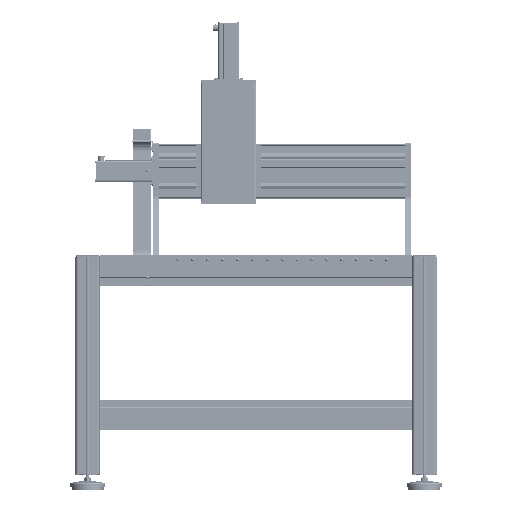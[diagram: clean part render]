
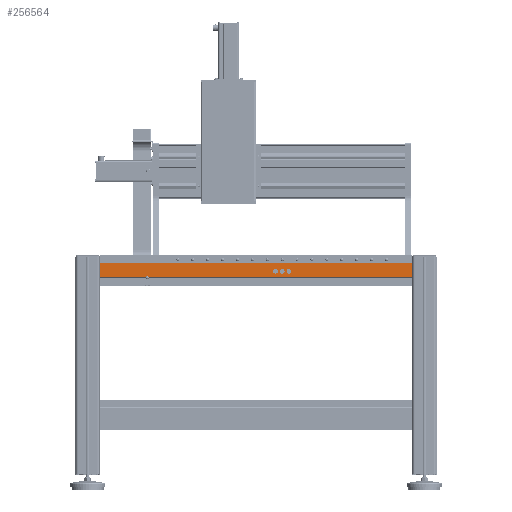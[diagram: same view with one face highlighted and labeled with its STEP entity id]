
A CAD part, top view. The second image highlights one B-rep face of the part: STEP entity #256564.
In plain terms, the highlighted planar face has unit normal (0, 0, 1).
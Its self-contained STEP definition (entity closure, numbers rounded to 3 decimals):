
#7085 = AXIS2_PLACEMENT_3D ( 'NONE', #435573, #193745, #476369 ) ;
#22583 = CARTESIAN_POINT ( 'NONE',  ( -525., 30.8, 566. ) ) ;
#33437 = CARTESIAN_POINT ( 'NONE',  ( 525., 30.8, 566. ) ) ;
#37410 = VERTEX_POINT ( 'NONE', #277957 ) ;
#37739 = ORIENTED_EDGE ( 'NONE', *, *, #41252, .F. ) ;
#41252 = EDGE_CURVE ( 'NONE', #378150, #202920, #470685, .T. ) ;
#41969 = EDGE_LOOP ( 'NONE', ( #69222 ) ) ;
#58509 = AXIS2_PLACEMENT_3D ( 'NONE', #70605, #352925, #111093 ) ;
#63387 = EDGE_CURVE ( 'NONE', #298938, #378150, #342848, .T. ) ;
#63935 = AXIS2_PLACEMENT_3D ( 'NONE', #455612, #213645, #496287 ) ;
#69222 = ORIENTED_EDGE ( 'NONE', *, *, #179534, .F. ) ;
#70605 = CARTESIAN_POINT ( 'NONE',  ( 88., 76.8, 566. ) ) ;
#81254 = CIRCLE ( 'NONE', #300457, 3.5 ) ;
#98791 = EDGE_CURVE ( 'NONE', #37410, #252019, #299181, .T. ) ;
#106605 = CARTESIAN_POINT ( 'NONE',  ( 116.5, 76.8, 566. ) ) ;
#111093 = DIRECTION ( 'NONE',  ( 1., 0., 0. ) ) ;
#149563 = VECTOR ( 'NONE', #152437, 1000. ) ;
#149776 = ORIENTED_EDGE ( 'NONE', *, *, #63387, .F. ) ;
#152072 = LINE ( 'NONE', #353496, #149563 ) ;
#152437 = DIRECTION ( 'NONE',  ( 0., 1., 0. ) ) ;
#152523 = VERTEX_POINT ( 'NONE', #106605 ) ;
#157026 = EDGE_CURVE ( 'NONE', #252019, #298938, #81254, .T. ) ;
#157750 = EDGE_LOOP ( 'NONE', ( #191311 ) ) ;
#160003 = EDGE_CURVE ( 'NONE', #455758, #202920, #371862, .T. ) ;
#160129 = CARTESIAN_POINT ( 'NONE',  ( -525., 105.5, 566. ) ) ;
#164496 = DIRECTION ( 'NONE',  ( -1., 0., 0. ) ) ;
#171106 = AXIS2_PLACEMENT_3D ( 'NONE', #33437, #435760, #356274 ) ;
#179534 = EDGE_CURVE ( 'NONE', #234416, #234416, #515538, .T. ) ;
#191311 = ORIENTED_EDGE ( 'NONE', *, *, #202838, .F. ) ;
#193745 = DIRECTION ( 'NONE',  ( 0., 0., 1. ) ) ;
#202838 = EDGE_CURVE ( 'NONE', #152523, #152523, #371363, .T. ) ;
#202920 = VERTEX_POINT ( 'NONE', #160129 ) ;
#207614 = VERTEX_POINT ( 'NONE', #269523 ) ;
#213645 = DIRECTION ( 'NONE',  ( 0., 0., 1. ) ) ;
#215391 = EDGE_LOOP ( 'NONE', ( #287643 ) ) ;
#221986 = CARTESIAN_POINT ( 'NONE',  ( -365., 55.8, 566. ) ) ;
#226120 = DIRECTION ( 'NONE',  ( -1., 0., 0. ) ) ;
#234416 = VERTEX_POINT ( 'NONE', #357526 ) ;
#252019 = VERTEX_POINT ( 'NONE', #391759 ) ;
#256564 = ADVANCED_FACE ( 'NONE', ( #494519, #495730, #494615, #493625 ), #517136, .T. ) ;
#262509 = DIRECTION ( 'NONE',  ( 1., 0., 0. ) ) ;
#264213 = DIRECTION ( 'NONE',  ( 0., 1., 0. ) ) ;
#269523 = CARTESIAN_POINT ( 'NONE',  ( 71.5, 76.8, 566. ) ) ;
#277957 = CARTESIAN_POINT ( 'NONE',  ( 525., 56.1, 566. ) ) ;
#281194 = ORIENTED_EDGE ( 'NONE', *, *, #369602, .T. ) ;
#287643 = ORIENTED_EDGE ( 'NONE', *, *, #330089, .F. ) ;
#298938 = VERTEX_POINT ( 'NONE', #361823 ) ;
#299181 = LINE ( 'NONE', #427311, #301369 ) ;
#300457 = AXIS2_PLACEMENT_3D ( 'NONE', #221986, #504643, #262509 ) ;
#301369 = VECTOR ( 'NONE', #226120, 1000. ) ;
#319052 = CARTESIAN_POINT ( 'NONE',  ( 525., 56.1, 566. ) ) ;
#330089 = EDGE_CURVE ( 'NONE', #207614, #207614, #444156, .T. ) ;
#340936 = VECTOR ( 'NONE', #522312, 1000. ) ;
#342848 = LINE ( 'NONE', #319052, #340936 ) ;
#352925 = DIRECTION ( 'NONE',  ( 0., 0., 1. ) ) ;
#353496 = CARTESIAN_POINT ( 'NONE',  ( 525., 30.8, 566. ) ) ;
#356274 = DIRECTION ( 'NONE',  ( 1., 0., 0. ) ) ;
#357526 = CARTESIAN_POINT ( 'NONE',  ( 94., 76.8, 566. ) ) ;
#361823 = CARTESIAN_POINT ( 'NONE',  ( -368.487, 56.1, 566. ) ) ;
#369602 = EDGE_CURVE ( 'NONE', #37410, #455758, #152072, .T. ) ;
#371363 = CIRCLE ( 'NONE', #7085, 6. ) ;
#371379 = VECTOR ( 'NONE', #164496, 1000. ) ;
#371862 = LINE ( 'NONE', #446960, #371379 ) ;
#372415 = ORIENTED_EDGE ( 'NONE', *, *, #98791, .F. ) ;
#378150 = VERTEX_POINT ( 'NONE', #422347 ) ;
#391759 = CARTESIAN_POINT ( 'NONE',  ( -361.513, 56.1, 566. ) ) ;
#422347 = CARTESIAN_POINT ( 'NONE',  ( -525., 56.1, 566. ) ) ;
#427311 = CARTESIAN_POINT ( 'NONE',  ( 525., 56.1, 566. ) ) ;
#435573 = CARTESIAN_POINT ( 'NONE',  ( 110.5, 76.8, 566. ) ) ;
#435760 = DIRECTION ( 'NONE',  ( 0., 0., 1. ) ) ;
#444156 = CIRCLE ( 'NONE', #63935, 6. ) ;
#446960 = CARTESIAN_POINT ( 'NONE',  ( 525., 105.5, 566. ) ) ;
#449026 = EDGE_LOOP ( 'NONE', ( #455667, #372415, #281194, #503048, #37739, #149776 ) ) ;
#455612 = CARTESIAN_POINT ( 'NONE',  ( 65.5, 76.8, 566. ) ) ;
#455667 = ORIENTED_EDGE ( 'NONE', *, *, #157026, .F. ) ;
#455758 = VERTEX_POINT ( 'NONE', #493437 ) ;
#468776 = VECTOR ( 'NONE', #264213, 1000. ) ;
#470685 = LINE ( 'NONE', #22583, #468776 ) ;
#476369 = DIRECTION ( 'NONE',  ( 1., 0., 0. ) ) ;
#493437 = CARTESIAN_POINT ( 'NONE',  ( 525., 105.5, 566. ) ) ;
#493625 = FACE_BOUND ( 'NONE', #215391, .T. ) ;
#494519 = FACE_OUTER_BOUND ( 'NONE', #449026, .T. ) ;
#494615 = FACE_BOUND ( 'NONE', #157750, .T. ) ;
#495730 = FACE_BOUND ( 'NONE', #41969, .T. ) ;
#496287 = DIRECTION ( 'NONE',  ( 1., 0., 0. ) ) ;
#503048 = ORIENTED_EDGE ( 'NONE', *, *, #160003, .T. ) ;
#504643 = DIRECTION ( 'NONE',  ( 0., 0., 1. ) ) ;
#515538 = CIRCLE ( 'NONE', #58509, 6. ) ;
#517136 = PLANE ( 'NONE',  #171106 ) ;
#522312 = DIRECTION ( 'NONE',  ( -1., 0., 0. ) ) ;
